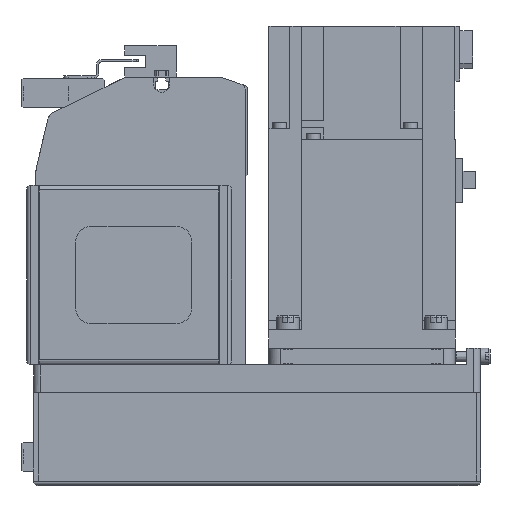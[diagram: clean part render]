
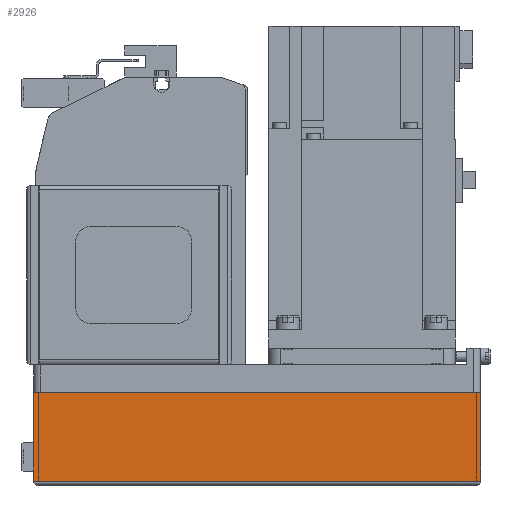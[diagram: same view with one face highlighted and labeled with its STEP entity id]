
A CAD part, left-side view. The second image highlights one B-rep face of the part: STEP entity #2926.
In plain terms, the highlighted planar face has unit normal (-1, 0, 0) as drawn and (0, 1, 0) by its records, which use the part's own axes.
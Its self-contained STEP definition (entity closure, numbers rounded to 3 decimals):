
#2926 = ADVANCED_FACE( '', ( #6186 ), #6187, .T. );
#6186 = FACE_OUTER_BOUND( '', #9618, .T. );
#6187 = PLANE( '', #9619 );
#9618 = EDGE_LOOP( '', ( #17838, #17839, #17840, #17841 ) );
#9619 = AXIS2_PLACEMENT_3D( '', #17842, #17843, #17844 );
#17838 = ORIENTED_EDGE( '', *, *, #21266, .F. );
#17839 = ORIENTED_EDGE( '', *, *, #22752, .F. );
#17840 = ORIENTED_EDGE( '', *, *, #19777, .T. );
#17841 = ORIENTED_EDGE( '', *, *, #22680, .T. );
#17842 = CARTESIAN_POINT( '', ( -192., 40., -50. ) );
#17843 = DIRECTION( '', ( 0., 1., 0. ) );
#17844 = DIRECTION( '', ( 0., 0., 1. ) );
#19777 = EDGE_CURVE( '', #23629, #23633, #23635, .T. );
#21266 = EDGE_CURVE( '', #26093, #26095, #26096, .T. );
#22680 = EDGE_CURVE( '', #23633, #26095, #27989, .T. );
#22752 = EDGE_CURVE( '', #23629, #26093, #28066, .T. );
#23629 = VERTEX_POINT( '', #29435 );
#23633 = VERTEX_POINT( '', #29441 );
#23635 = LINE( '', #29444, #29445 );
#26093 = VERTEX_POINT( '', #33105 );
#26095 = VERTEX_POINT( '', #33108 );
#26096 = LINE( '', #33109, #33110 );
#27989 = LINE( '', #35910, #35911 );
#28066 = LINE( '', #36013, #36014 );
#29435 = CARTESIAN_POINT( '', ( -192., 40., -50. ) );
#29441 = CARTESIAN_POINT( '', ( -192., 40., -12.1 ) );
#29444 = CARTESIAN_POINT( '', ( -192., 40., -50. ) );
#29445 = VECTOR( '', #36816, 1000. );
#33105 = CARTESIAN_POINT( '', ( 0., 40., -50. ) );
#33108 = CARTESIAN_POINT( '', ( 0., 40., -12.1 ) );
#33109 = CARTESIAN_POINT( '', ( 0., 40., -50. ) );
#33110 = VECTOR( '', #38752, 1000. );
#35910 = CARTESIAN_POINT( '', ( -192., 40., -12.1 ) );
#35911 = VECTOR( '', #40266, 1000. );
#36013 = CARTESIAN_POINT( '', ( -192., 40., -50. ) );
#36014 = VECTOR( '', #40320, 1000. );
#36816 = DIRECTION( '', ( 0., 0., 1. ) );
#38752 = DIRECTION( '', ( 0., 0., 1. ) );
#40266 = DIRECTION( '', ( 1., 0., 0. ) );
#40320 = DIRECTION( '', ( 1., 0., 0. ) );
